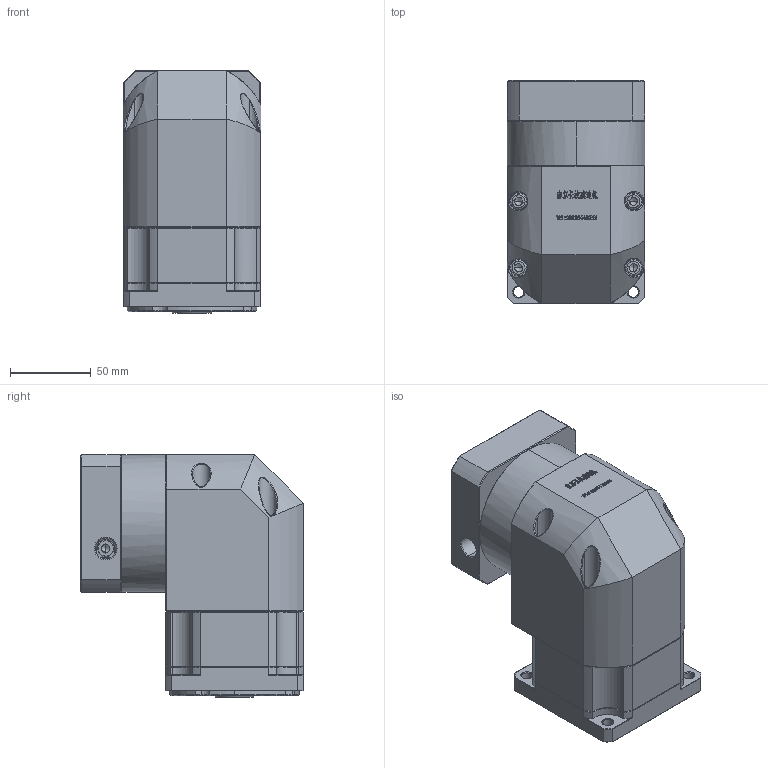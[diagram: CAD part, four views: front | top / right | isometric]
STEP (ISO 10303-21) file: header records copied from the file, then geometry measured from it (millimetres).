
FILE_DESCRIPTION (( 'STEP AP214' ), '1' );
FILE_NAME ('ZBR90-K15-L1-12.7-73-69.5X69.5-M6.step', '2022-05-07T15:11:16', ( '' ), ( 'Microsoft' ), 'SwSTEP 2.0', 'SolidWorks 2016', '' );
FILE_SCHEMA (( 'AUTOMOTIVE_DESIGN' ));
Length unit declared in the file: millimetre
Products named in the file (1): ZBR90-K15-L1-12.7-73-69.5X69.5-M6
Bounding box: 85 x 137.6 x 150 mm (x, y, z)
Volume: 1166744 mm3; surface area: 128452.2 mm2
Topology: 5 solids, 5 shells, 2943 faces, 7798 edges, 4988 vertices
Faces by surface type: plane 1570, bspline 596, cylinder 409, cone 344, torus 24
Entity records: 157463 total; most frequent: CARTESIAN_POINT 56751, ORIENTED_EDGE 15524, DIRECTION 11864, EDGE_CURVE 7762, VECTOR 5224, LINE 5224, VERTEX_POINT 4988, AXIS2_PLACEMENT_3D 3320
